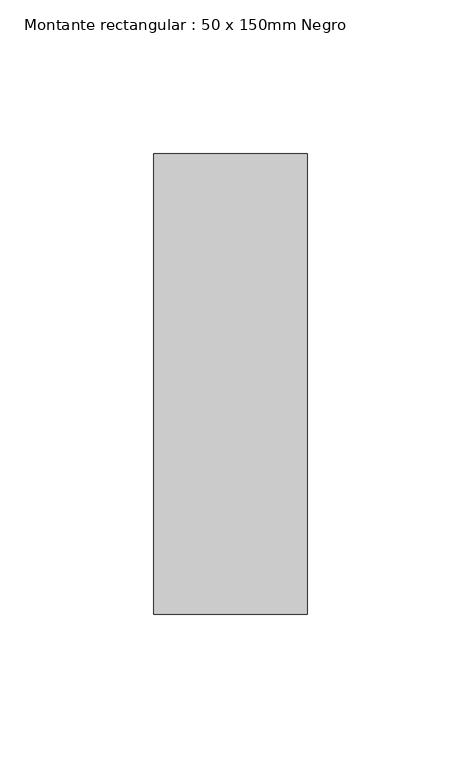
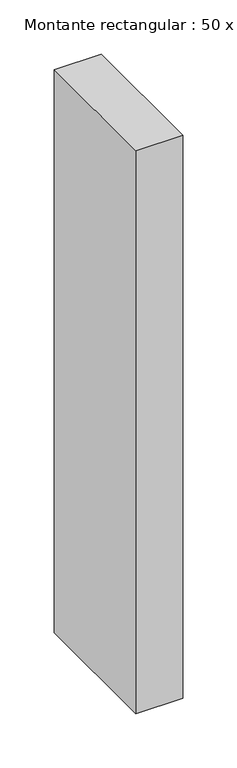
"""IFC4 building model written with IfcOpenShell, lengths in millimetres: member geometry, Montante rectangular : 50 x 150mm Negro."""

from ifc_helpers import new_model, si_unit, frame, origin, place, context, project, spatial, polyline, outline, extrude, source, transform, mapped, element, save


def montante_rectangular_50_x_150mm_negro_e77f96f9(model_context):
    return source(origin(), model_context, "Body", "SweptSolid", [
        extrude(outline(polyline([(0.0, 75.0), (0.0, -75.0), (-50.0, -75.0), (-50.0, 75.0), (0.0, 75.0)])), frame((0.0, 0.0, -633.3333333), z_axis=(0.0, 0.0, 1.0), x_axis=(1.0, 0.0, 0.0)), (0.0, 0.0, 1.0), 633.3333333),
    ])


if __name__ == "__main__":
    model = new_model("IFC4")
    model_context = context("Model", 3, world=origin())
    ifc_project = project(units=[si_unit("LENGTHUNIT", "METRE", prefix="MILLI")], contexts=[model_context])
    site = spatial("IfcSite", under=ifc_project)
    building = spatial("IfcBuilding", under=site)
    placement = place(None, origin())
    montante_rectangular_50_x_150mm_negro_shape = montante_rectangular_50_x_150mm_negro_e77f96f9(model_context)
    element("IfcMember", 1, ObjectType="Montante rectangular : 50 x 150mm Negro", at=placement, inside=building, context=model_context, shape_type="MappedRepresentation", body=[
        mapped(montante_rectangular_50_x_150mm_negro_shape, transform((0.0, 0.0, 0.0), x_axis=(1.0, 0.0, 0.0), y_axis=(0.0, 1.0, 0.0), z_axis=(0.0, 0.0, 1.0))),
    ])
    save(model, "model.ifc")
